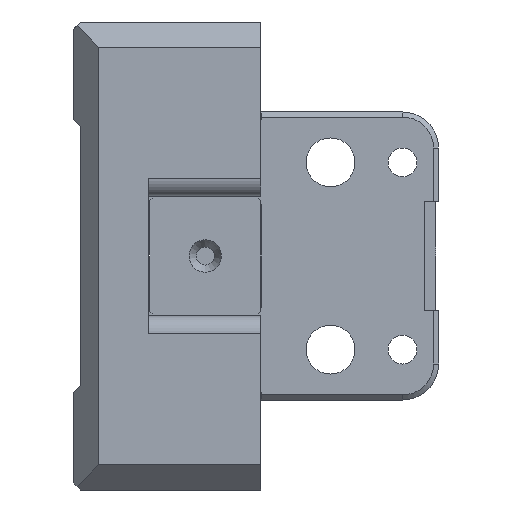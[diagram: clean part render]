
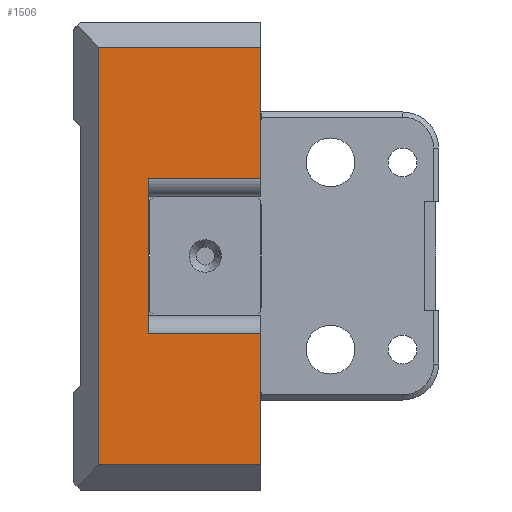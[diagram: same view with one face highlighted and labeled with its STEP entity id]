
A CAD part, left-side view. The second image highlights one B-rep face of the part: STEP entity #1506.
In plain terms, the highlighted planar face has unit normal (-1, 0, 0).
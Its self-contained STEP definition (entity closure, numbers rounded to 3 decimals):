
#49 = CARTESIAN_POINT ( 'NONE',  ( -200., -26., -32.5 ) ) ;
#106 = ORIENTED_EDGE ( 'NONE', *, *, #251, .T. ) ;
#170 = ORIENTED_EDGE ( 'NONE', *, *, #2870, .F. ) ;
#251 = EDGE_CURVE ( 'NONE', #3887, #3439, #3168, .T. ) ;
#437 = EDGE_CURVE ( 'NONE', #3439, #572, #1803, .T. ) ;
#572 = VERTEX_POINT ( 'NONE', #1760 ) ;
#590 = VERTEX_POINT ( 'NONE', #1666 ) ;
#651 = CARTESIAN_POINT ( 'NONE',  ( -200., -26., -29. ) ) ;
#776 = CARTESIAN_POINT ( 'NONE',  ( -200., -26., 29. ) ) ;
#800 = VERTEX_POINT ( 'NONE', #4044 ) ;
#872 = DIRECTION ( 'NONE',  ( 0., 0., -1. ) ) ;
#950 = VECTOR ( 'NONE', #1195, 1000. ) ;
#961 = VECTOR ( 'NONE', #4403, 1000. ) ;
#981 = EDGE_CURVE ( 'NONE', #1727, #2179, #1793, .T. ) ;
#1140 = DIRECTION ( 'NONE',  ( 0., 0., 1. ) ) ;
#1165 = CARTESIAN_POINT ( 'NONE',  ( -200., -26., -29. ) ) ;
#1195 = DIRECTION ( 'NONE',  ( 0., 0., -1. ) ) ;
#1245 = DIRECTION ( 'NONE',  ( -1., 0., 0. ) ) ;
#1371 = AXIS2_PLACEMENT_3D ( 'NONE', #49, #1245, #4087 ) ;
#1424 = EDGE_CURVE ( 'NONE', #3887, #5155, #4174, .T. ) ;
#1447 = VECTOR ( 'NONE', #3466, 1000. ) ;
#1506 = ADVANCED_FACE ( 'NONE', ( #2602 ), #3270, .T. ) ;
#1529 = CARTESIAN_POINT ( 'NONE',  ( -200., -26., 10.8 ) ) ;
#1596 = CARTESIAN_POINT ( 'NONE',  ( -200., -10.4, -10.8 ) ) ;
#1624 = CARTESIAN_POINT ( 'NONE',  ( -200., -10.4, -10.8 ) ) ;
#1666 = CARTESIAN_POINT ( 'NONE',  ( -200., -3.5, 29. ) ) ;
#1727 = VERTEX_POINT ( 'NONE', #1165 ) ;
#1760 = CARTESIAN_POINT ( 'NONE',  ( -200., -26., 29. ) ) ;
#1793 = LINE ( 'NONE', #3155, #3169 ) ;
#1801 = EDGE_CURVE ( 'NONE', #800, #1727, #2531, .T. ) ;
#1803 = LINE ( 'NONE', #4144, #3830 ) ;
#1894 = CARTESIAN_POINT ( 'NONE',  ( -200., -10.4, 10.8 ) ) ;
#2059 = EDGE_CURVE ( 'NONE', #590, #800, #3266, .T. ) ;
#2095 = ORIENTED_EDGE ( 'NONE', *, *, #2059, .T. ) ;
#2102 = VECTOR ( 'NONE', #4095, 1000. ) ;
#2132 = CARTESIAN_POINT ( 'NONE',  ( -200., -10.4, -10.8 ) ) ;
#2179 = VERTEX_POINT ( 'NONE', #3801 ) ;
#2479 = CARTESIAN_POINT ( 'NONE',  ( -200., -10.4, 10.8 ) ) ;
#2507 = CARTESIAN_POINT ( 'NONE',  ( -200., -3.5, -32.5 ) ) ;
#2531 = LINE ( 'NONE', #651, #1447 ) ;
#2552 = LINE ( 'NONE', #1624, #4801 ) ;
#2554 = ORIENTED_EDGE ( 'NONE', *, *, #437, .T. ) ;
#2602 = FACE_OUTER_BOUND ( 'NONE', #4191, .T. ) ;
#2870 = EDGE_CURVE ( 'NONE', #5155, #2179, #2552, .T. ) ;
#2955 = EDGE_CURVE ( 'NONE', #572, #590, #4302, .T. ) ;
#3155 = CARTESIAN_POINT ( 'NONE',  ( -200., -26., -32.5 ) ) ;
#3168 = LINE ( 'NONE', #2479, #2102 ) ;
#3169 = VECTOR ( 'NONE', #1140, 1000. ) ;
#3266 = LINE ( 'NONE', #2507, #4340 ) ;
#3270 = PLANE ( 'NONE',  #1371 ) ;
#3439 = VERTEX_POINT ( 'NONE', #1529 ) ;
#3466 = DIRECTION ( 'NONE',  ( 0., -1., 0. ) ) ;
#3801 = CARTESIAN_POINT ( 'NONE',  ( -200., -26., -10.8 ) ) ;
#3830 = VECTOR ( 'NONE', #4539, 1000. ) ;
#3838 = ORIENTED_EDGE ( 'NONE', *, *, #1424, .F. ) ;
#3887 = VERTEX_POINT ( 'NONE', #1894 ) ;
#4044 = CARTESIAN_POINT ( 'NONE',  ( -200., -3.5, -29. ) ) ;
#4087 = DIRECTION ( 'NONE',  ( 0., 0., 1. ) ) ;
#4095 = DIRECTION ( 'NONE',  ( 0., -1., 0. ) ) ;
#4144 = CARTESIAN_POINT ( 'NONE',  ( -200., -26., -32.5 ) ) ;
#4174 = LINE ( 'NONE', #1596, #950 ) ;
#4191 = EDGE_LOOP ( 'NONE', ( #2095, #4548, #4687, #170, #3838, #106, #2554, #4470 ) ) ;
#4302 = LINE ( 'NONE', #776, #961 ) ;
#4340 = VECTOR ( 'NONE', #872, 1000. ) ;
#4403 = DIRECTION ( 'NONE',  ( 0., 1., 0. ) ) ;
#4440 = DIRECTION ( 'NONE',  ( 0., -1., 0. ) ) ;
#4470 = ORIENTED_EDGE ( 'NONE', *, *, #2955, .T. ) ;
#4539 = DIRECTION ( 'NONE',  ( 0., 0., 1. ) ) ;
#4548 = ORIENTED_EDGE ( 'NONE', *, *, #1801, .T. ) ;
#4687 = ORIENTED_EDGE ( 'NONE', *, *, #981, .T. ) ;
#4801 = VECTOR ( 'NONE', #4440, 1000. ) ;
#5155 = VERTEX_POINT ( 'NONE', #2132 ) ;
